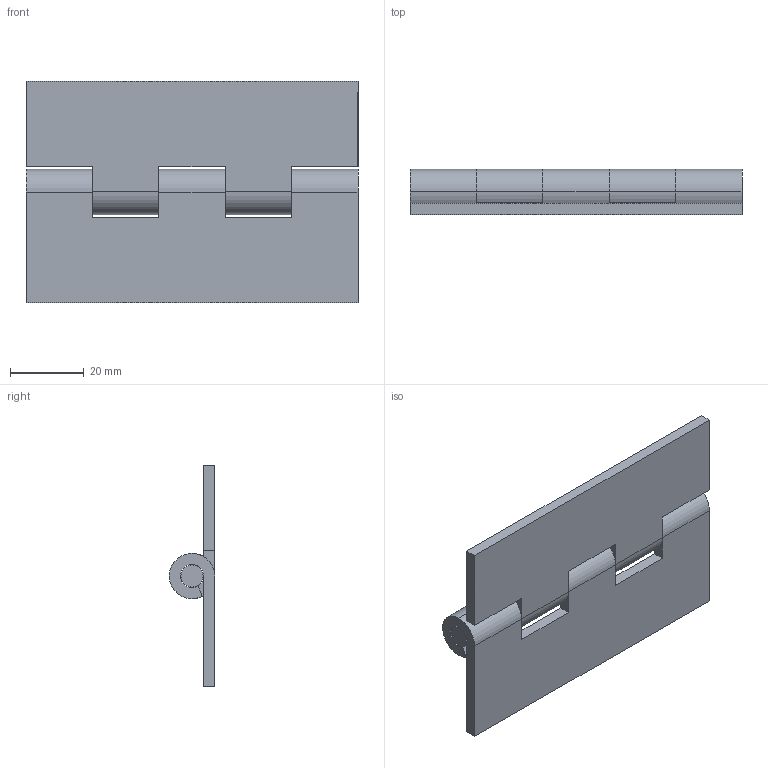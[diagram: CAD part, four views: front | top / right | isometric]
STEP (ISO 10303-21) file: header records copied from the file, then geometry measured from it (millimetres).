
FILE_DESCRIPTION (( 'STEP AP203' ), '1' );
FILE_NAME ('B17-17785.STEP', '2024-10-24T09:37:52', ( '' ), ( '' ), 'SwSTEP 2.0', 'SolidWorks 2021', '' );
FILE_SCHEMA (( 'CONFIG_CONTROL_DESIGN' ));
Length unit declared in the file: millimetre
Products named in the file (4): B17-207805-1; B17-6-90; B17-207805-2; B17-17785
Assembly tree (3 placements, depth 2):
  B17-17785
    B17-207805-1
    B17-207805-2
    B17-6-90
Bounding box: 90 x 12.3 x 60.01 mm (x, y, z)
Volume: 23480.5 mm3; surface area: 17982.7 mm2
Topology: 3 solids, 3 shells, 67 faces, 183 edges, 122 vertices
Faces by surface type: plane 35, cylinder 32
Entity records: 2555 total; most frequent: DIRECTION 393, CARTESIAN_POINT 378, ORIENTED_EDGE 366, EDGE_CURVE 183, AXIS2_PLACEMENT_3D 137, VERTEX_POINT 122, VECTOR 119, LINE 119
